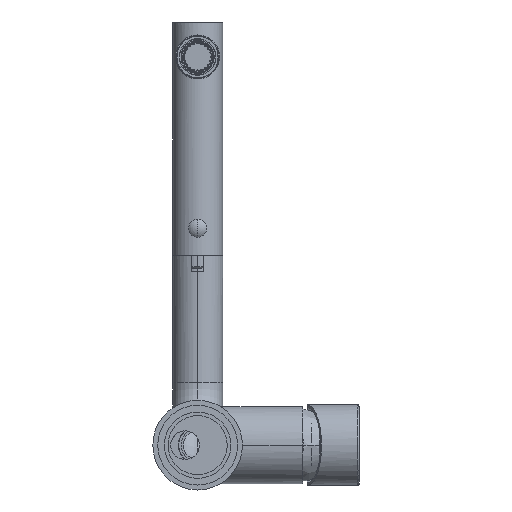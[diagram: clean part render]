
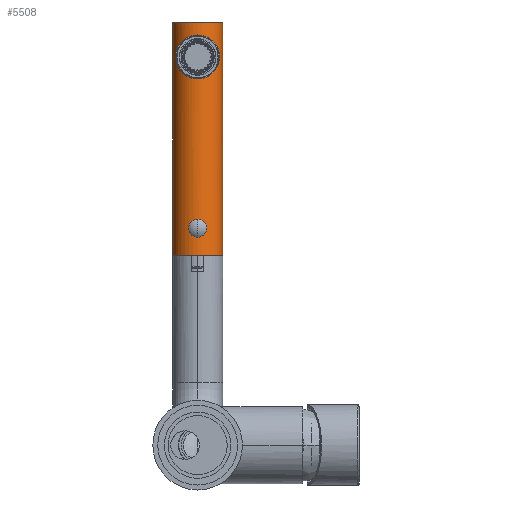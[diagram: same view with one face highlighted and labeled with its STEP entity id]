
A CAD part, front view. The second image highlights one B-rep face of the part: STEP entity #5508.
In plain terms, the highlighted cylindrical face has radius 14 mm (diameter 28 mm), a partial arc.
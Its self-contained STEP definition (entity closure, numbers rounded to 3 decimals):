
#272=B_SPLINE_CURVE_WITH_KNOTS('',3,(#26211,#26212,#26213,#26214,#26215,
#26216,#26217,#26218,#26219,#26220,#26221,#26222,#26223,#26224,#26225,#26226,
#26227,#26228,#26229,#26230,#26231,#26232,#26233,#26234,#26235,#26236,#26237,
#26238,#26239,#26240,#26241),.UNSPECIFIED.,.F.,.F.,(4,3,3,3,3,3,3,3,3,3,
4),(0.,0.107,0.214,0.322,0.429,
0.537,0.644,0.751,0.859,
0.966,1.),.UNSPECIFIED.);
#273=B_SPLINE_CURVE_WITH_KNOTS('',3,(#26244,#26245,#26246,#26247,#26248,
#26249,#26250,#26251,#26252,#26253,#26254,#26255,#26256,#26257,#26258,#26259,
#26260,#26261,#26262,#26263,#26264,#26265,#26266,#26267,#26268,#26269,#26270,
#26271,#26272,#26273,#26274),.UNSPECIFIED.,.F.,.F.,(4,3,3,3,3,3,3,3,3,3,
4),(0.,0.107,0.214,0.322,0.429,
0.537,0.644,0.751,0.859,
0.966,1.),.UNSPECIFIED.);
#274=B_SPLINE_CURVE_WITH_KNOTS('',3,(#26275,#26276,#26277,#26278,#26279,
#26280,#26281,#26282,#26283,#26284,#26285,#26286,#26287,#26288,#26289,#26290,
#26291,#26292),.UNSPECIFIED.,.F.,.F.,(4,2,2,2,2,2,2,2,4),(0.,0.125,0.25,
0.375,0.5,0.625,0.75,0.875,1.),.UNSPECIFIED.);
#275=B_SPLINE_CURVE_WITH_KNOTS('',3,(#26295,#26296,#26297,#26298,#26299,
#26300,#26301,#26302,#26303,#26304,#26305,#26306,#26307,#26308,#26309,#26310,
#26311,#26312),.UNSPECIFIED.,.F.,.F.,(4,2,2,2,2,2,2,2,4),(0.,0.125,0.25,
0.375,0.5,0.625,0.75,0.875,1.),.UNSPECIFIED.);
#561=CYLINDRICAL_SURFACE('',#19303,14.);
#785=LINE('',#26195,#2624);
#786=LINE('',#26197,#2625);
#2624=VECTOR('',#20980,1.);
#2625=VECTOR('',#20981,1.);
#5508=ADVANCED_FACE('',(#7243,#7244,#7245),#561,.T.);
#7243=FACE_BOUND('',#7405,.T.);
#7244=FACE_BOUND('',#7406,.T.);
#7245=FACE_BOUND('',#7407,.T.);
#7405=EDGE_LOOP('',(#8591,#8592,#8593,#8594));
#7406=EDGE_LOOP('',(#8595,#8596));
#7407=EDGE_LOOP('',(#8597,#8598));
#8591=ORIENTED_EDGE('',*,*,#15847,.F.);
#8592=ORIENTED_EDGE('',*,*,#15840,.T.);
#8593=ORIENTED_EDGE('',*,*,#15846,.T.);
#8594=ORIENTED_EDGE('',*,*,#15853,.F.);
#8595=ORIENTED_EDGE('',*,*,#15854,.F.);
#8596=ORIENTED_EDGE('',*,*,#15855,.F.);
#8597=ORIENTED_EDGE('',*,*,#15856,.T.);
#8598=ORIENTED_EDGE('',*,*,#15857,.T.);
#14075=VERTEX_POINT('',#26182);
#14076=VERTEX_POINT('',#26183);
#14081=VERTEX_POINT('',#26196);
#14082=VERTEX_POINT('',#26198);
#14085=VERTEX_POINT('',#26242);
#14086=VERTEX_POINT('',#26243);
#14087=VERTEX_POINT('',#26293);
#14088=VERTEX_POINT('',#26294);
#15840=EDGE_CURVE('',#14075,#14076,#18592,.T.);
#15846=EDGE_CURVE('',#14076,#14081,#785,.T.);
#15847=EDGE_CURVE('',#14075,#14082,#786,.T.);
#15853=EDGE_CURVE('',#14082,#14081,#18603,.T.);
#15854=EDGE_CURVE('',#14085,#14086,#272,.T.);
#15855=EDGE_CURVE('',#14086,#14085,#273,.T.);
#15856=EDGE_CURVE('',#14087,#14088,#274,.T.);
#15857=EDGE_CURVE('',#14088,#14087,#275,.T.);
#18592=CIRCLE('',#19285,14.);
#18603=CIRCLE('',#19301,14.);
#19285=AXIS2_PLACEMENT_3D('',#26181,#20964,#20965);
#19301=AXIS2_PLACEMENT_3D('',#26209,#20998,#20999);
#19303=AXIS2_PLACEMENT_3D('',#26313,#21002,#21003);
#20964=DIRECTION('',(0.,0.,1.));
#20965=DIRECTION('',(-1.,0.,0.));
#20980=DIRECTION('',(0.,0.,1.));
#20981=DIRECTION('',(0.,0.,1.));
#20998=DIRECTION('',(0.,0.,1.));
#20999=DIRECTION('',(-1.,0.,0.));
#21002=DIRECTION('',(0.,0.,1.));
#21003=DIRECTION('',(-1.,0.,0.));
#26181=CARTESIAN_POINT('',(0.,311.5,106.));
#26182=CARTESIAN_POINT('',(-14.,311.5,106.));
#26183=CARTESIAN_POINT('',(14.,311.5,106.));
#26195=CARTESIAN_POINT('',(14.,311.5,106.));
#26196=CARTESIAN_POINT('',(14.,311.5,235.5));
#26197=CARTESIAN_POINT('',(-14.,311.5,106.));
#26198=CARTESIAN_POINT('',(-14.,311.5,235.5));
#26209=CARTESIAN_POINT('',(0.,311.5,235.5));
#26211=CARTESIAN_POINT('',(0.,297.5,120.));
#26212=CARTESIAN_POINT('',(0.112,297.5,120.));
#26213=CARTESIAN_POINT('',(0.225,297.501,120.019));
#26214=CARTESIAN_POINT('',(0.331,297.504,120.056));
#26215=CARTESIAN_POINT('',(0.436,297.506,120.093));
#26216=CARTESIAN_POINT('',(0.536,297.51,120.149));
#26217=CARTESIAN_POINT('',(0.624,297.514,120.218));
#26218=CARTESIAN_POINT('',(0.711,297.518,120.288));
#26219=CARTESIAN_POINT('',(0.788,297.522,120.374));
#26220=CARTESIAN_POINT('',(0.847,297.526,120.469));
#26221=CARTESIAN_POINT('',(0.907,297.529,120.564));
#26222=CARTESIAN_POINT('',(0.951,297.532,120.67));
#26223=CARTESIAN_POINT('',(0.975,297.534,120.779));
#26224=CARTESIAN_POINT('',(1.,297.536,120.889));
#26225=CARTESIAN_POINT('',(1.006,297.536,121.003));
#26226=CARTESIAN_POINT('',(0.993,297.535,121.115));
#26227=CARTESIAN_POINT('',(0.981,297.534,121.225));
#26228=CARTESIAN_POINT('',(0.949,297.532,121.336));
#26229=CARTESIAN_POINT('',(0.9,297.529,121.436));
#26230=CARTESIAN_POINT('',(0.851,297.526,121.537));
#26231=CARTESIAN_POINT('',(0.784,297.522,121.63));
#26232=CARTESIAN_POINT('',(0.705,297.518,121.709));
#26233=CARTESIAN_POINT('',(0.626,297.514,121.788));
#26234=CARTESIAN_POINT('',(0.532,297.51,121.854));
#26235=CARTESIAN_POINT('',(0.431,297.507,121.902));
#26236=CARTESIAN_POINT('',(0.33,297.504,121.951));
#26237=CARTESIAN_POINT('',(0.219,297.501,121.982));
#26238=CARTESIAN_POINT('',(0.108,297.5,121.994));
#26239=CARTESIAN_POINT('',(0.072,297.5,121.998));
#26240=CARTESIAN_POINT('',(0.036,297.5,122.));
#26241=CARTESIAN_POINT('',(0.,297.5,122.));
#26242=CARTESIAN_POINT('',(0.,297.5,120.));
#26243=CARTESIAN_POINT('',(0.,297.5,122.));
#26244=CARTESIAN_POINT('',(0.,297.5,122.));
#26245=CARTESIAN_POINT('',(-0.112,297.5,122.));
#26246=CARTESIAN_POINT('',(-0.225,297.501,121.981));
#26247=CARTESIAN_POINT('',(-0.331,297.504,121.944));
#26248=CARTESIAN_POINT('',(-0.436,297.506,121.907));
#26249=CARTESIAN_POINT('',(-0.536,297.51,121.851));
#26250=CARTESIAN_POINT('',(-0.624,297.514,121.782));
#26251=CARTESIAN_POINT('',(-0.711,297.518,121.712));
#26252=CARTESIAN_POINT('',(-0.788,297.522,121.626));
#26253=CARTESIAN_POINT('',(-0.847,297.526,121.531));
#26254=CARTESIAN_POINT('',(-0.907,297.529,121.436));
#26255=CARTESIAN_POINT('',(-0.951,297.532,121.33));
#26256=CARTESIAN_POINT('',(-0.975,297.534,121.221));
#26257=CARTESIAN_POINT('',(-1.,297.536,121.111));
#26258=CARTESIAN_POINT('',(-1.006,297.536,120.997));
#26259=CARTESIAN_POINT('',(-0.993,297.535,120.885));
#26260=CARTESIAN_POINT('',(-0.981,297.534,120.775));
#26261=CARTESIAN_POINT('',(-0.949,297.532,120.664));
#26262=CARTESIAN_POINT('',(-0.9,297.529,120.564));
#26263=CARTESIAN_POINT('',(-0.851,297.526,120.463));
#26264=CARTESIAN_POINT('',(-0.784,297.522,120.37));
#26265=CARTESIAN_POINT('',(-0.705,297.518,120.291));
#26266=CARTESIAN_POINT('',(-0.626,297.514,120.212));
#26267=CARTESIAN_POINT('',(-0.532,297.51,120.146));
#26268=CARTESIAN_POINT('',(-0.431,297.507,120.098));
#26269=CARTESIAN_POINT('',(-0.33,297.504,120.049));
#26270=CARTESIAN_POINT('',(-0.219,297.501,120.018));
#26271=CARTESIAN_POINT('',(-0.108,297.5,120.006));
#26272=CARTESIAN_POINT('',(-0.072,297.5,120.002));
#26273=CARTESIAN_POINT('',(-0.036,297.5,120.));
#26274=CARTESIAN_POINT('',(0.,297.5,120.));
#26275=CARTESIAN_POINT('',(0.,297.5,204.25));
#26276=CARTESIAN_POINT('',(-1.754,297.5,204.25));
#26277=CARTESIAN_POINT('',(-3.46,297.84,204.635));
#26278=CARTESIAN_POINT('',(-6.451,298.972,205.959));
#26279=CARTESIAN_POINT('',(-7.74,299.756,206.886));
#26280=CARTESIAN_POINT('',(-9.84,301.451,209.05));
#26281=CARTESIAN_POINT('',(-10.669,302.379,210.289));
#26282=CARTESIAN_POINT('',(-11.87,304.008,213.107));
#26283=CARTESIAN_POINT('',(-12.25,304.723,214.755));
#26284=CARTESIAN_POINT('',(-12.25,304.722,218.249));
#26285=CARTESIAN_POINT('',(-11.872,304.011,219.888));
#26286=CARTESIAN_POINT('',(-10.67,302.379,222.711));
#26287=CARTESIAN_POINT('',(-9.85,301.46,223.938));
#26288=CARTESIAN_POINT('',(-7.749,299.762,226.107));
#26289=CARTESIAN_POINT('',(-6.472,298.982,227.03));
#26290=CARTESIAN_POINT('',(-3.457,297.838,228.367));
#26291=CARTESIAN_POINT('',(-1.753,297.5,228.75));
#26292=CARTESIAN_POINT('',(0.,297.5,228.75));
#26293=CARTESIAN_POINT('',(0.,297.5,204.25));
#26294=CARTESIAN_POINT('',(0.,297.5,228.75));
#26295=CARTESIAN_POINT('',(0.,297.5,228.75));
#26296=CARTESIAN_POINT('',(1.754,297.5,228.75));
#26297=CARTESIAN_POINT('',(3.46,297.84,228.365));
#26298=CARTESIAN_POINT('',(6.451,298.972,227.041));
#26299=CARTESIAN_POINT('',(7.74,299.756,226.114));
#26300=CARTESIAN_POINT('',(9.84,301.451,223.95));
#26301=CARTESIAN_POINT('',(10.669,302.379,222.711));
#26302=CARTESIAN_POINT('',(11.87,304.008,219.893));
#26303=CARTESIAN_POINT('',(12.25,304.723,218.245));
#26304=CARTESIAN_POINT('',(12.25,304.722,214.751));
#26305=CARTESIAN_POINT('',(11.872,304.011,213.112));
#26306=CARTESIAN_POINT('',(10.67,302.379,210.289));
#26307=CARTESIAN_POINT('',(9.85,301.46,209.062));
#26308=CARTESIAN_POINT('',(7.749,299.762,206.893));
#26309=CARTESIAN_POINT('',(6.472,298.982,205.97));
#26310=CARTESIAN_POINT('',(3.457,297.838,204.633));
#26311=CARTESIAN_POINT('',(1.753,297.5,204.25));
#26312=CARTESIAN_POINT('',(0.,297.5,204.25));
#26313=CARTESIAN_POINT('',(0.,311.5,106.));
